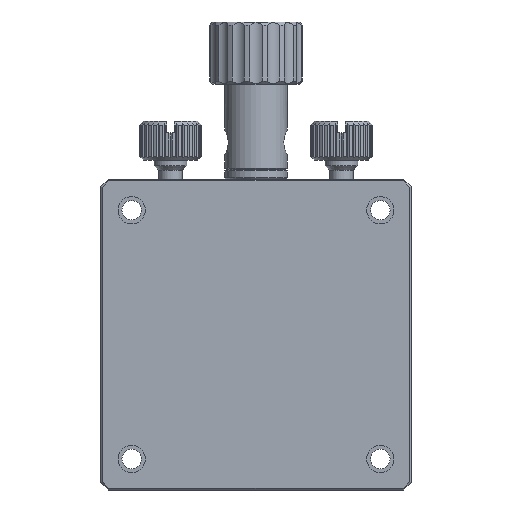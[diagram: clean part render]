
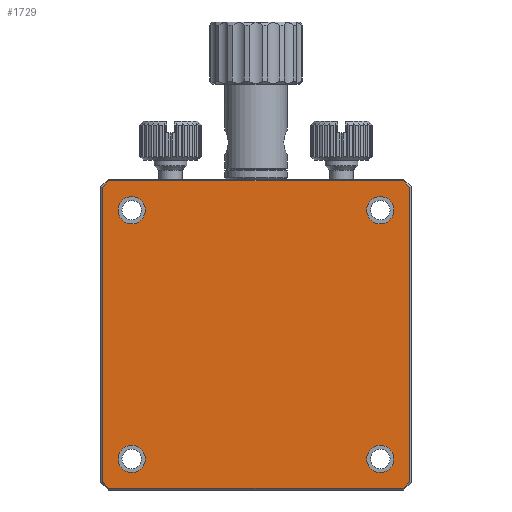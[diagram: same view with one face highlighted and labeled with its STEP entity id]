
A CAD part, front view. The second image highlights one B-rep face of the part: STEP entity #1729.
In plain terms, the highlighted planar face has unit normal (0, -1, 0).
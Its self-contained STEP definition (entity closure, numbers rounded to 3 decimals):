
#1=CARTESIAN_POINT('',(-16.,-14.,16.));
#2=DIRECTION('',(0.,-1.,0.));
#3=DIRECTION('',(1.,0.,0.));
#4=AXIS2_PLACEMENT_3D('',#1,#2,#3);
#6=CARTESIAN_POINT('',(-16.,-14.,16.));
#7=DIRECTION('',(0.,-1.,0.));
#8=DIRECTION('',(-1.,0.,0.));
#9=AXIS2_PLACEMENT_3D('',#6,#7,#8);
#11=CARTESIAN_POINT('',(16.,-14.,16.));
#12=DIRECTION('',(0.,-1.,0.));
#13=DIRECTION('',(1.,0.,0.));
#14=AXIS2_PLACEMENT_3D('',#11,#12,#13);
#16=CARTESIAN_POINT('',(16.,-14.,16.));
#17=DIRECTION('',(0.,-1.,0.));
#18=DIRECTION('',(-1.,0.,0.));
#19=AXIS2_PLACEMENT_3D('',#16,#17,#18);
#21=CARTESIAN_POINT('',(-16.,-14.,-16.));
#22=DIRECTION('',(0.,-1.,0.));
#23=DIRECTION('',(1.,0.,0.));
#24=AXIS2_PLACEMENT_3D('',#21,#22,#23);
#26=CARTESIAN_POINT('',(-16.,-14.,-16.));
#27=DIRECTION('',(0.,-1.,0.));
#28=DIRECTION('',(-1.,0.,0.));
#29=AXIS2_PLACEMENT_3D('',#26,#27,#28);
#31=CARTESIAN_POINT('',(16.,-14.,-16.));
#32=DIRECTION('',(0.,-1.,0.));
#33=DIRECTION('',(1.,0.,0.));
#34=AXIS2_PLACEMENT_3D('',#31,#32,#33);
#36=CARTESIAN_POINT('',(16.,-14.,-16.));
#37=DIRECTION('',(0.,-1.,0.));
#38=DIRECTION('',(-1.,0.,0.));
#39=AXIS2_PLACEMENT_3D('',#36,#37,#38);
#41=DIRECTION('',(0.707,0.,-0.707));
#42=VECTOR('',#41,1.249);
#43=CARTESIAN_POINT('',(-19.8,-14.,-18.917));
#44=LINE('',#43,#42);
#45=DIRECTION('',(0.,0.,-1.));
#46=VECTOR('',#45,37.834);
#47=CARTESIAN_POINT('',(-19.8,-14.,18.917));
#48=LINE('',#47,#46);
#49=DIRECTION('',(-0.707,0.,-0.707));
#50=VECTOR('',#49,1.249);
#51=CARTESIAN_POINT('',(-18.917,-14.,19.8));
#52=LINE('',#51,#50);
#53=DIRECTION('',(-1.,0.,0.));
#54=VECTOR('',#53,37.834);
#55=CARTESIAN_POINT('',(18.917,-14.,19.8));
#56=LINE('',#55,#54);
#57=DIRECTION('',(-0.707,0.,0.707));
#58=VECTOR('',#57,1.249);
#59=CARTESIAN_POINT('',(19.8,-14.,18.917));
#60=LINE('',#59,#58);
#61=DIRECTION('',(0.,0.,1.));
#62=VECTOR('',#61,37.834);
#63=CARTESIAN_POINT('',(19.8,-14.,-18.917));
#64=LINE('',#63,#62);
#65=DIRECTION('',(0.707,0.,0.707));
#66=VECTOR('',#65,1.249);
#67=CARTESIAN_POINT('',(18.917,-14.,-19.8));
#68=LINE('',#67,#66);
#69=DIRECTION('',(1.,0.,0.));
#70=VECTOR('',#69,37.834);
#71=CARTESIAN_POINT('',(-18.917,-14.,-19.8));
#72=LINE('',#71,#70);
#1310=CARTESIAN_POINT('',(-19.8,-14.,-18.917));
#1311=CARTESIAN_POINT('',(-18.917,-14.,-19.8));
#1312=VERTEX_POINT('',#1310);
#1313=VERTEX_POINT('',#1311);
#1320=CARTESIAN_POINT('',(18.917,-14.,-19.8));
#1321=VERTEX_POINT('',#1320);
#1322=CARTESIAN_POINT('',(19.8,-14.,-18.917));
#1323=VERTEX_POINT('',#1322);
#1328=CARTESIAN_POINT('',(19.8,-14.,18.917));
#1329=VERTEX_POINT('',#1328);
#1330=CARTESIAN_POINT('',(18.917,-14.,19.8));
#1331=VERTEX_POINT('',#1330);
#1336=CARTESIAN_POINT('',(-18.917,-14.,19.8));
#1337=VERTEX_POINT('',#1336);
#1340=CARTESIAN_POINT('',(-19.8,-14.,18.917));
#1341=VERTEX_POINT('',#1340);
#1342=CARTESIAN_POINT('',(-14.25,-14.,16.));
#1343=CARTESIAN_POINT('',(-17.75,-14.,16.));
#1344=VERTEX_POINT('',#1342);
#1345=VERTEX_POINT('',#1343);
#1346=CARTESIAN_POINT('',(17.75,-14.,16.));
#1347=CARTESIAN_POINT('',(14.25,-14.,16.));
#1348=VERTEX_POINT('',#1346);
#1349=VERTEX_POINT('',#1347);
#1350=CARTESIAN_POINT('',(-14.25,-14.,-16.));
#1351=CARTESIAN_POINT('',(-17.75,-14.,-16.));
#1352=VERTEX_POINT('',#1350);
#1353=VERTEX_POINT('',#1351);
#1354=CARTESIAN_POINT('',(17.75,-14.,-16.));
#1355=CARTESIAN_POINT('',(14.25,-14.,-16.));
#1356=VERTEX_POINT('',#1354);
#1357=VERTEX_POINT('',#1355);
#1682=CARTESIAN_POINT('',(0.,-14.,0.));
#1683=DIRECTION('',(0.,1.,0.));
#1684=DIRECTION('',(1.,0.,0.));
#1685=AXIS2_PLACEMENT_3D('',#1682,#1683,#1684);
#1686=PLANE('',#1685);
#1688=ORIENTED_EDGE('',*,*,#1687,.F.);
#1690=ORIENTED_EDGE('',*,*,#1689,.F.);
#1692=ORIENTED_EDGE('',*,*,#1691,.F.);
#1694=ORIENTED_EDGE('',*,*,#1693,.F.);
#1696=ORIENTED_EDGE('',*,*,#1695,.F.);
#1698=ORIENTED_EDGE('',*,*,#1697,.F.);
#1700=ORIENTED_EDGE('',*,*,#1699,.F.);
#1702=ORIENTED_EDGE('',*,*,#1701,.F.);
#1703=EDGE_LOOP('',(#1688,#1690,#1692,#1694,#1696,#1698,#1700,#1702));
#1704=FACE_OUTER_BOUND('',#1703,.F.);
#1706=ORIENTED_EDGE('',*,*,#1705,.T.);
#1708=ORIENTED_EDGE('',*,*,#1707,.T.);
#1709=EDGE_LOOP('',(#1706,#1708));
#1710=FACE_BOUND('',#1709,.F.);
#1712=ORIENTED_EDGE('',*,*,#1711,.T.);
#1714=ORIENTED_EDGE('',*,*,#1713,.T.);
#1715=EDGE_LOOP('',(#1712,#1714));
#1716=FACE_BOUND('',#1715,.F.);
#1718=ORIENTED_EDGE('',*,*,#1717,.T.);
#1720=ORIENTED_EDGE('',*,*,#1719,.T.);
#1721=EDGE_LOOP('',(#1718,#1720));
#1722=FACE_BOUND('',#1721,.F.);
#1724=ORIENTED_EDGE('',*,*,#1723,.T.);
#1726=ORIENTED_EDGE('',*,*,#1725,.T.);
#1727=EDGE_LOOP('',(#1724,#1726));
#1728=FACE_BOUND('',#1727,.F.);
#1729=ADVANCED_FACE('',(#1704,#1710,#1716,#1722,#1728),#1686,.F.);
#5=CIRCLE('',#4,1.75);
#10=CIRCLE('',#9,1.75);
#15=CIRCLE('',#14,1.75);
#20=CIRCLE('',#19,1.75);
#25=CIRCLE('',#24,1.75);
#30=CIRCLE('',#29,1.75);
#35=CIRCLE('',#34,1.75);
#40=CIRCLE('',#39,1.75);
#1687=EDGE_CURVE('',#1312,#1313,#44,.T.);
#1689=EDGE_CURVE('',#1341,#1312,#48,.T.);
#1691=EDGE_CURVE('',#1337,#1341,#52,.T.);
#1693=EDGE_CURVE('',#1331,#1337,#56,.T.);
#1695=EDGE_CURVE('',#1329,#1331,#60,.T.);
#1697=EDGE_CURVE('',#1323,#1329,#64,.T.);
#1699=EDGE_CURVE('',#1321,#1323,#68,.T.);
#1701=EDGE_CURVE('',#1313,#1321,#72,.T.);
#1705=EDGE_CURVE('',#1348,#1349,#15,.T.);
#1707=EDGE_CURVE('',#1349,#1348,#20,.T.);
#1711=EDGE_CURVE('',#1352,#1353,#25,.T.);
#1713=EDGE_CURVE('',#1353,#1352,#30,.T.);
#1717=EDGE_CURVE('',#1356,#1357,#35,.T.);
#1719=EDGE_CURVE('',#1357,#1356,#40,.T.);
#1723=EDGE_CURVE('',#1344,#1345,#5,.T.);
#1725=EDGE_CURVE('',#1345,#1344,#10,.T.);
